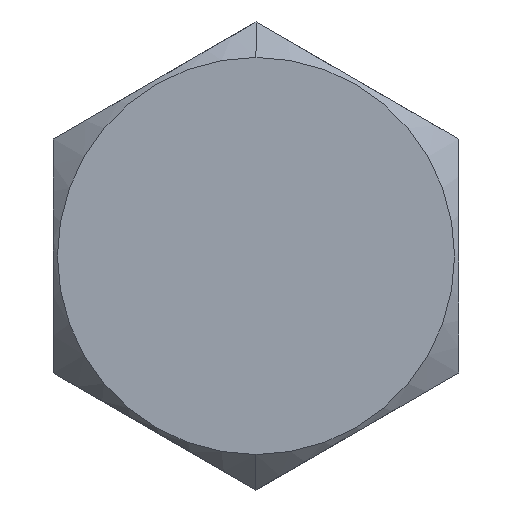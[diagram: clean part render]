
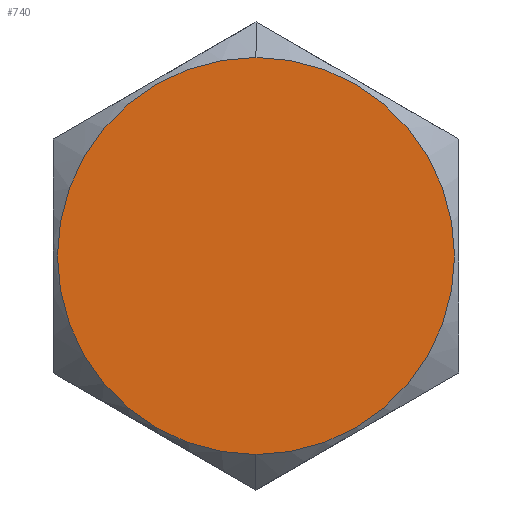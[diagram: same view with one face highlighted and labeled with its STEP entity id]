
A CAD part, left-side view. The second image highlights one B-rep face of the part: STEP entity #740.
In plain terms, the highlighted planar face has unit normal (-1, 0, 0).
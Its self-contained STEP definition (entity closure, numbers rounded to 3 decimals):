
#29 = CIRCLE ( 'NONE', #420, 7.838 ) ;
#109 = CARTESIAN_POINT ( 'NONE',  ( 0., 0., -7.838 ) ) ;
#119 = VERTEX_POINT ( 'NONE', #702 ) ;
#160 = DIRECTION ( 'NONE',  ( 0., 0., -1. ) ) ;
#181 = CIRCLE ( 'NONE', #232, 7.838 ) ;
#220 = DIRECTION ( 'NONE',  ( 1., 0., 0. ) ) ;
#232 = AXIS2_PLACEMENT_3D ( 'NONE', #780, #403, #660 ) ;
#261 = EDGE_CURVE ( 'NONE', #119, #766, #181, .T. ) ;
#262 = ORIENTED_EDGE ( 'NONE', *, *, #749, .F. ) ;
#281 = PLANE ( 'NONE',  #464 ) ;
#403 = DIRECTION ( 'NONE',  ( 1., 0., 0. ) ) ;
#420 = AXIS2_PLACEMENT_3D ( 'NONE', #768, #452, #643 ) ;
#452 = DIRECTION ( 'NONE',  ( 1., 0., 0. ) ) ;
#464 = AXIS2_PLACEMENT_3D ( 'NONE', #784, #220, #160 ) ;
#539 = ORIENTED_EDGE ( 'NONE', *, *, #261, .F. ) ;
#643 = DIRECTION ( 'NONE',  ( 0., 0., -1. ) ) ;
#660 = DIRECTION ( 'NONE',  ( 0., 0., -1. ) ) ;
#702 = CARTESIAN_POINT ( 'NONE',  ( 0., 0., 7.838 ) ) ;
#724 = FACE_OUTER_BOUND ( 'NONE', #755, .T. ) ;
#740 = ADVANCED_FACE ( 'NONE', ( #724 ), #281, .F. ) ;
#749 = EDGE_CURVE ( 'NONE', #766, #119, #29, .T. ) ;
#755 = EDGE_LOOP ( 'NONE', ( #262, #539 ) ) ;
#766 = VERTEX_POINT ( 'NONE', #109 ) ;
#768 = CARTESIAN_POINT ( 'NONE',  ( 0., 0., 0. ) ) ;
#780 = CARTESIAN_POINT ( 'NONE',  ( 0., 0., 0. ) ) ;
#784 = CARTESIAN_POINT ( 'NONE',  ( 0., 0., 0. ) ) ;
